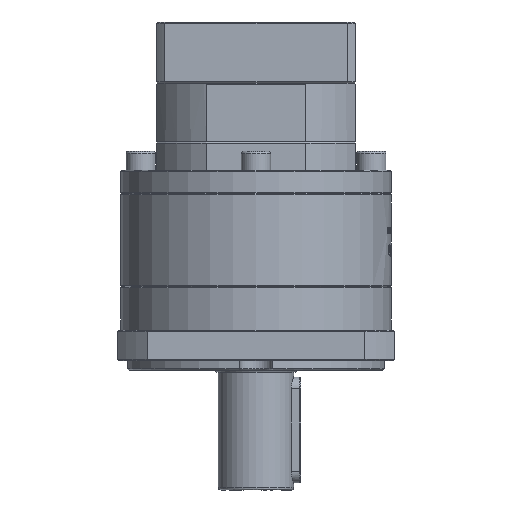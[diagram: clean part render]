
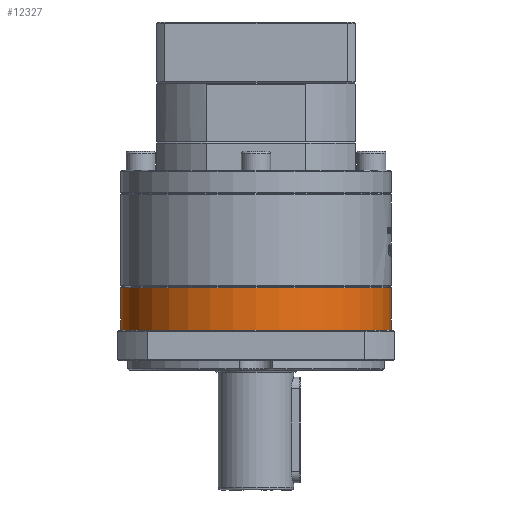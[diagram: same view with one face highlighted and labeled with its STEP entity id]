
A CAD part, front view. The second image highlights one B-rep face of the part: STEP entity #12327.
In plain terms, the highlighted cylindrical face has radius 57.5 mm (diameter 115 mm), a partial arc.
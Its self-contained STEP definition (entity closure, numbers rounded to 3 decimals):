
#584 = VERTEX_POINT ( 'NONE', #73282 ) ;
#1239 = CARTESIAN_POINT ( 'NONE',  ( -77.774, 58.054, -107.168 ) ) ;
#2184 = DIRECTION ( 'NONE',  ( 0., 0., 1. ) ) ;
#9587 = LINE ( 'NONE', #68323, #55256 ) ;
#12327 = ADVANCED_FACE ( 'NONE', ( #42129 ), #54201, .T. ) ;
#16548 = DIRECTION ( 'NONE',  ( 0., 0., 1. ) ) ;
#19129 = CARTESIAN_POINT ( 'NONE',  ( -77.774, 58.054, -107.168 ) ) ;
#23345 = CARTESIAN_POINT ( 'NONE',  ( -20.274, 58.054, -107.168 ) ) ;
#25122 = CARTESIAN_POINT ( 'NONE',  ( -20.274, 58.054, -89.168 ) ) ;
#25560 = VERTEX_POINT ( 'NONE', #25122 ) ;
#25729 = EDGE_CURVE ( 'NONE', #584, #25560, #39549, .T. ) ;
#27766 = DIRECTION ( 'NONE',  ( 1., 0., 0. ) ) ;
#29076 = EDGE_CURVE ( 'NONE', #54941, #25560, #43161, .T. ) ;
#31461 = AXIS2_PLACEMENT_3D ( 'NONE', #1239, #61250, #95821 ) ;
#33952 = AXIS2_PLACEMENT_3D ( 'NONE', #53604, #2184, #62219 ) ;
#39549 = CIRCLE ( 'NONE', #33952, 57.5 ) ;
#42129 = FACE_OUTER_BOUND ( 'NONE', #77827, .T. ) ;
#42165 = AXIS2_PLACEMENT_3D ( 'NONE', #19129, #79197, #27766 ) ;
#42343 = VERTEX_POINT ( 'NONE', #53225 ) ;
#42683 = ORIENTED_EDGE ( 'NONE', *, *, #48942, .F. ) ;
#43161 = LINE ( 'NONE', #79216, #88908 ) ;
#48942 = EDGE_CURVE ( 'NONE', #42343, #584, #9587, .T. ) ;
#53225 = CARTESIAN_POINT ( 'NONE',  ( -135.274, 58.054, -107.168 ) ) ;
#53604 = CARTESIAN_POINT ( 'NONE',  ( -77.774, 58.054, -89.168 ) ) ;
#54201 = CYLINDRICAL_SURFACE ( 'NONE', #31461, 57.5 ) ;
#54941 = VERTEX_POINT ( 'NONE', #23345 ) ;
#55256 = VECTOR ( 'NONE', #16548, 1000. ) ;
#59140 = ORIENTED_EDGE ( 'NONE', *, *, #87175, .T. ) ;
#61250 = DIRECTION ( 'NONE',  ( 0., 0., 1. ) ) ;
#62219 = DIRECTION ( 'NONE',  ( -1., 0., 0. ) ) ;
#68323 = CARTESIAN_POINT ( 'NONE',  ( -135.274, 58.054, -107.168 ) ) ;
#69923 = ORIENTED_EDGE ( 'NONE', *, *, #29076, .T. ) ;
#73282 = CARTESIAN_POINT ( 'NONE',  ( -135.274, 58.054, -89.168 ) ) ;
#73550 = ORIENTED_EDGE ( 'NONE', *, *, #25729, .F. ) ;
#77827 = EDGE_LOOP ( 'NONE', ( #42683, #59140, #69923, #73550 ) ) ;
#79197 = DIRECTION ( 'NONE',  ( 0., 0., 1. ) ) ;
#79216 = CARTESIAN_POINT ( 'NONE',  ( -20.274, 58.054, -107.168 ) ) ;
#87175 = EDGE_CURVE ( 'NONE', #42343, #54941, #95407, .T. ) ;
#88908 = VECTOR ( 'NONE', #103635, 1000. ) ;
#95407 = CIRCLE ( 'NONE', #42165, 57.5 ) ;
#95821 = DIRECTION ( 'NONE',  ( 1., 0., 0. ) ) ;
#103635 = DIRECTION ( 'NONE',  ( 0., 0., 1. ) ) ;
